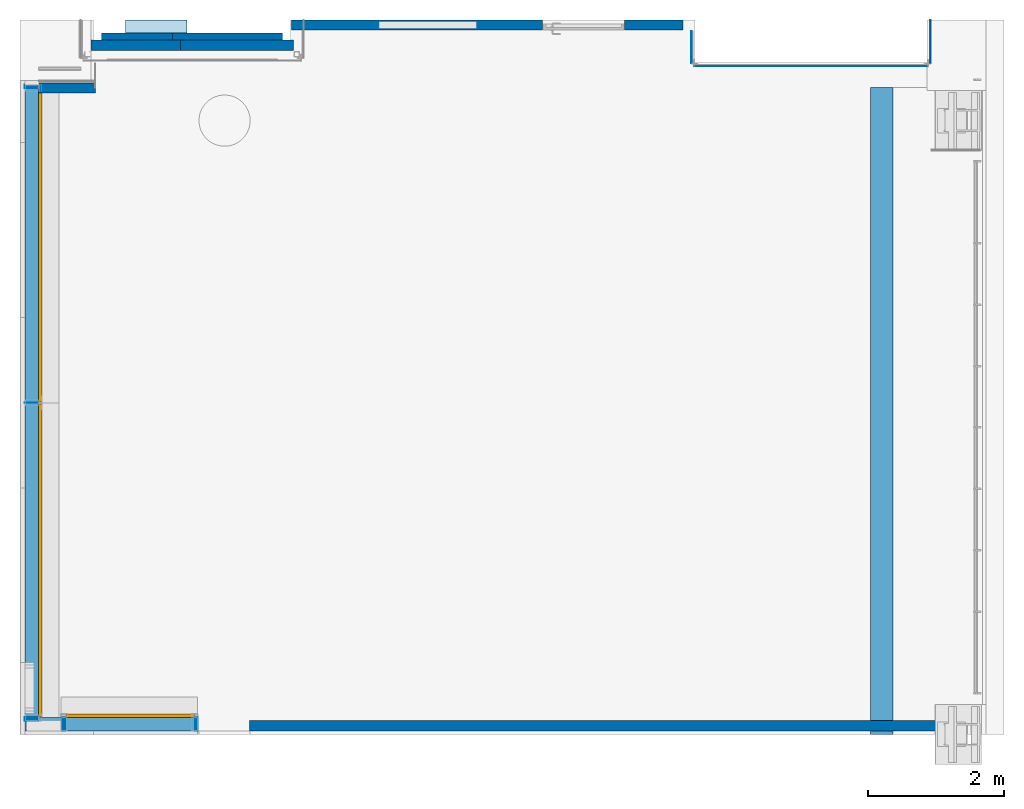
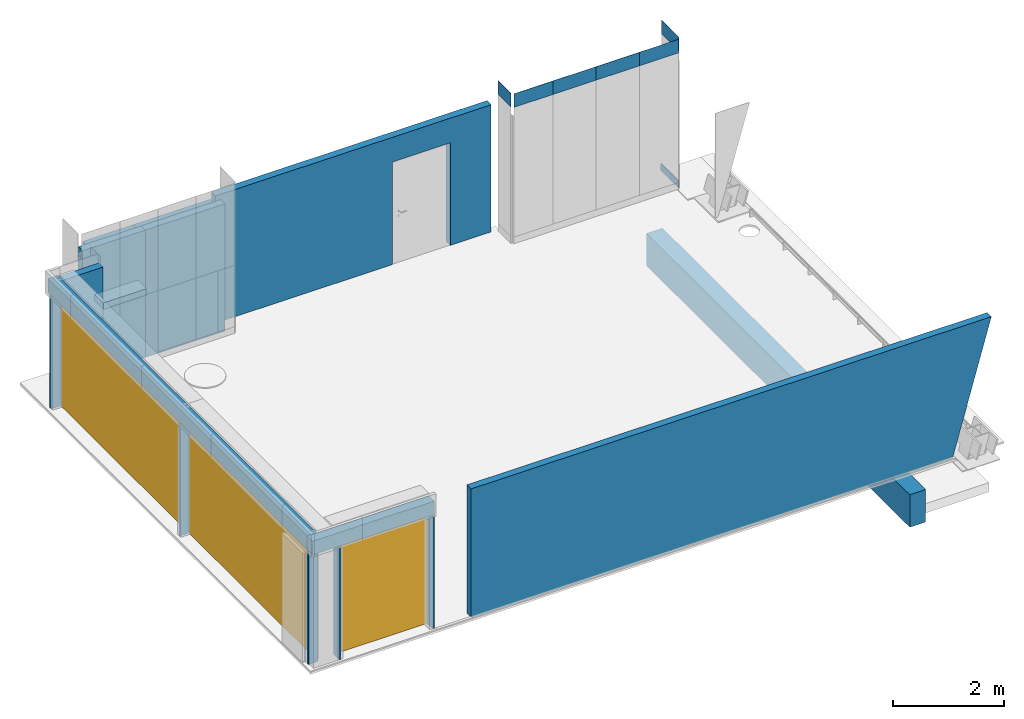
# One storey, part 6 of 14: 12 walls, 7 plates, 3 doors, 1 slab, 6 openings, 3 elements without a shape of their own.
"""IFC2X3 building model written with IfcOpenShell, lengths in millimetres."""

from ifc_helpers import new_model, entity, si_unit, converted_unit, derived_unit, direction, frame, frame_2d, origin, origin_with_axes, origin_2d_with_axis, place, context, subcontext, project, spatial, rectangle, extrude, clip, halfspace, faceted_brep, source, transform, mapped, material, layer, layer_set, layer_usage, type_object, element, fill, aggregate, save


model = new_model("IFC2X3")

# Units and contexts
model_context = context("Model", 3, precision=0.01, world=frame((0.0, 4.29681676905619e-09, 0.0)), true_north=direction((4.01073788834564e-13, 1.0)))
plan_context = context("Plan", 3, precision=0.01, world=frame((0.0, 4.29681676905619e-09, 0.0)), true_north=direction((4.01073788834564e-13, 1.0)))
body_context = subcontext(model_context, "Body", "Model", "MODEL_VIEW")
ifc_project = project(units=[converted_unit("PLANEANGLEUNIT", "DEGREE", entity("IfcPositiveLengthMeasure", 0.0174532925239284), si_unit("PLANEANGLEUNIT", "RADIAN"), dimensions=[0, 0, 0, 0, 0, 0, 0]), si_unit("AREAUNIT", "SQUARE_METRE"), si_unit("LENGTHUNIT", "METRE", prefix="MILLI"), si_unit("MASSUNIT", "GRAM", prefix="KILO"), si_unit("POWERUNIT", "WATT"), si_unit("PRESSUREUNIT", "PASCAL"), si_unit("FORCEUNIT", "NEWTON", prefix="KILO"), si_unit("ELECTRICVOLTAGEUNIT", "VOLT"), si_unit("ELECTRICCURRENTUNIT", "AMPERE"), si_unit("THERMODYNAMICTEMPERATUREUNIT", "DEGREE_CELSIUS"), si_unit("TIMEUNIT", "SECOND"), si_unit("VOLUMEUNIT", "CUBIC_METRE"), derived_unit("LINEARVELOCITYUNIT", [(si_unit("LENGTHUNIT", "METRE"), 1), (si_unit("TIMEUNIT", "SECOND"), -1)]), derived_unit("VOLUMETRICFLOWRATEUNIT", [(si_unit("VOLUMEUNIT", "CUBIC_METRE"), 1), (si_unit("TIMEUNIT", "SECOND"), -1)]), derived_unit("THERMALTRANSMITTANCEUNIT", [(si_unit("POWERUNIT", "WATT"), 1), (si_unit("THERMODYNAMICTEMPERATUREUNIT", "KELVIN"), -1), (si_unit("AREAUNIT", "SQUARE_METRE"), -1)]), derived_unit("SOUNDPRESSUREUNIT", [(si_unit("PRESSUREUNIT", "PASCAL"), 1)])], contexts=[model_context, plan_context])

# Site, building, storey
site_placement = place(None, origin_with_axes())
site = spatial("IfcSite", under=ifc_project, at=site_placement, Name="ENGM", CompositionType="ELEMENT")
building_placement = place(site_placement, origin_with_axes())
building = spatial("IfcBuilding", under=site, at=building_placement, Name="TI", CompositionType="ELEMENT")
storey_placement = place(building_placement, frame((0.0, 0.0, 210900.0), z_axis=(0.0, 0.0, 1.0), x_axis=(1.0, 0.0, 0.0)))
storey = spatial("IfcBuildingStorey", under=building, at=storey_placement, Name="Nivå F", CompositionType="ELEMENT", Elevation=210900.0)

# Curtain wall, plates
curtain_wall_type = type_object("IfcCurtainWallType", Name="Curtain Wall:A245 - IMK - Metal Kledning", PredefinedType="NOTDEFINED")
curtain_wall_1_placement = place(storey_placement, frame((0.0, 0.0, -210900.0), z_axis=(0.0, 0.0, 1.0), x_axis=(1.0, 0.0, 0.0)))
curtain_wall_1 = element("IfcCurtainWall", 1, at=curtain_wall_1_placement, inside=storey, type_object=curtain_wall_type, Name="Curtain Wall:A245 - IMK - Metal Kledning", ObjectType="Curtain Wall:A245 - IMK - Metal Kledning")
ifc_material_1 = material(Name="T2_Metal_Aluminium")
plate_type_1 = type_object("IfcPlateType", Name="System Panel:A245 - KL-M03 - Veggkledning metallplate plan, for betongvegg", PredefinedType="CURTAIN_PANEL", material=ifc_material_1)
plate_1_placement = place(curtain_wall_1_placement, frame((608295.506835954, 698800.000875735, 213900.0), z_axis=(0.0, 0.0, 1.0), x_axis=(-1.0, 0.0, 0.0)))
plate_1 = element("IfcPlate", 2, at=plate_1_placement, type_object=plate_type_1, Name="System Panel:A245 - KL-M03 - Veggkledning metallplate plan, for betongvegg", ObjectType="System Panel:A245 - KL-M03 - Veggkledning metallplate plan, for betongvegg", context=body_context, shape_type="Brep", body=[
    faceted_brep([(-404.500000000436, 0.0, 300.0), (404.500000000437, 0.0, 300.0), (404.500000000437, 0.0, 0.0), (-404.500000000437, 0.0, 0.0), (404.500000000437, 3.0, 300.0), (404.500000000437, 3.0, 0.0), (-404.500000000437, 3.0, 300.0), (-404.500000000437, 3.0, 0.0)], [[[0, 1, 2, 3]], [[1, 4, 5, 2]], [[4, 6, 7, 5]], [[6, 0, 3, 7]], [[3, 2, 5, 7]], [[6, 4, 1, 0]]], orient=[[False], [False], [False], [False], [False], [False]]),
])
plate_2_placement = place(curtain_wall_1_placement, frame((610904.506835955, 698800.000875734, 213900.0), z_axis=(0.0, 0.0, 1.0), x_axis=(-1.0, 0.0, 0.0)))
plate_2 = element("IfcPlate", 3, at=plate_2_placement, type_object=plate_type_1, Name="System Panel:A245 - KL-M03 - Veggkledning metallplate plan, for betongvegg", ObjectType="System Panel:A245 - KL-M03 - Veggkledning metallplate plan, for betongvegg", context=body_context, shape_type="Brep", body=[
    faceted_brep([(-404.500000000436, 0.0, 300.0), (404.500000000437, 0.0, 300.0), (404.500000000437, 0.0, 0.0), (-404.500000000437, 0.0, 0.0), (404.500000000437, 3.0, 300.0), (404.500000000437, 3.0, 0.0), (-404.500000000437, 3.0, 300.0), (-404.500000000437, 3.0, 0.0)], [[[0, 1, 2, 3]], [[1, 4, 5, 2]], [[4, 6, 7, 5]], [[6, 0, 3, 7]], [[3, 2, 5, 7]], [[6, 4, 1, 0]]], orient=[[False], [False], [False], [False], [False], [False]]),
])
plate_type_2 = type_object("IfcPlateType", Name="System Panel:A245 - KL-M03 - Veggkledning metallplate plan, for betongvegg", PredefinedType="CURTAIN_PANEL", material=ifc_material_1)
plate_3_placement = place(curtain_wall_1_placement, frame((609150.006835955, 698800.000875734, 213900.0), z_axis=(0.0, 0.0, 1.0), x_axis=(-1.0, 0.0, 0.0)))
plate_3 = element("IfcPlate", 4, at=plate_3_placement, type_object=plate_type_2, Name="System Panel:A245 - KL-M03 - Veggkledning metallplate plan, for betongvegg", ObjectType="System Panel:A245 - KL-M03 - Veggkledning metallplate plan, for betongvegg", context=body_context, shape_type="Brep", body=[
    faceted_brep([(-450.000000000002, 0.0, 300.0), (450.000000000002, 0.0, 300.0), (450.000000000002, 0.0, 0.0), (-450.000000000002, 0.0, 0.0), (450.000000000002, 3.0, 300.0), (450.000000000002, 3.0, 0.0), (-450.000000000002, 3.0, 300.0), (-450.000000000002, 3.0, 0.0)], [[[0, 1, 2, 3]], [[1, 4, 5, 2]], [[4, 6, 7, 5]], [[6, 0, 3, 7]], [[3, 2, 5, 7]], [[6, 4, 1, 0]]], orient=[[False], [False], [False], [False], [False], [False]]),
])
plate_4_placement = place(curtain_wall_1_placement, frame((610050.006835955, 698800.000875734, 213900.0), z_axis=(0.0, 0.0, 1.0), x_axis=(-1.0, 0.0, 0.0)))
plate_4 = element("IfcPlate", 5, at=plate_4_placement, type_object=plate_type_2, Name="System Panel:A245 - KL-M03 - Veggkledning metallplate plan, for betongvegg", ObjectType="System Panel:A245 - KL-M03 - Veggkledning metallplate plan, for betongvegg", context=body_context, shape_type="Brep", body=[
    faceted_brep([(-450.000000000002, 0.0, 300.0), (450.000000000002, 0.0, 300.0), (450.000000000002, 0.0, 0.0), (-450.000000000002, 0.0, 0.0), (450.000000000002, 3.0, 300.0), (450.000000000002, 3.0, 0.0), (-450.000000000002, 3.0, 300.0), (-450.000000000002, 3.0, 0.0)], [[[0, 1, 2, 3]], [[1, 4, 5, 2]], [[4, 6, 7, 5]], [[6, 0, 3, 7]], [[3, 2, 5, 7]], [[6, 4, 1, 0]]], orient=[[False], [False], [False], [False], [False], [False]]),
])
aggregate(curtain_wall_1, [plate_3, plate_1, plate_2, plate_4])

# Curtain wall, plate
curtain_wall_2_placement = place(storey_placement, frame((0.0, 0.0, -210900.0), z_axis=(0.0, 0.0, 1.0), x_axis=(1.0, 0.0, 0.0)))
curtain_wall_2 = element("IfcCurtainWall", 6, at=curtain_wall_2_placement, inside=storey, type_object=curtain_wall_type, Name="Curtain Wall:A245 - IMK - Metal Kledning", ObjectType="Curtain Wall:A245 - IMK - Metal Kledning")
plate_type_3 = type_object("IfcPlateType", Name="System Panel:A245 - KL-M03 - Veggkledning metallplate plan, for betongvegg", PredefinedType="CURTAIN_PANEL", material=ifc_material_1)
plate_5_placement = place(curtain_wall_2_placement, frame((607850.000000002, 699320.499999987, 213900.0), z_axis=(0.0, 0.0, 1.0), x_axis=(0.0, -1.0, 0.0)))
plate_5 = element("IfcPlate", 7, at=plate_5_placement, type_object=plate_type_3, Name="System Panel:A245 - KL-M03 - Veggkledning metallplate plan, for betongvegg", ObjectType="System Panel:A245 - KL-M03 - Veggkledning metallplate plan, for betongvegg", context=body_context, shape_type="Brep", body=[
    faceted_brep([(479.500000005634, -3.0, 0.0), (479.500000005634, 0.0, 0.0), (10.499999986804, 0.0, 0.0), (10.499999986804, -3.0, 0.0), (10.499999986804, 0.0, 300.0), (10.499999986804, -3.0, 300.0), (479.500000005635, -3.0, 300.0), (479.500000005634, 0.0, 300.0)], [[[0, 1, 2, 3]], [[4, 5, 3, 2]], [[6, 7, 1, 0]], [[5, 6, 0, 3]], [[7, 4, 2, 1]], [[7, 6, 5, 4]]], orient=[[False], [False], [False], [False], [False], [False]]),
])
aggregate(curtain_wall_2, [plate_5])

# Curtain wall, plates
curtain_wall_3_placement = place(storey_placement, frame((0.0, 0.0, -210900.0), z_axis=(0.0, 0.0, 1.0), x_axis=(1.0, 0.0, 0.0)))
curtain_wall_3 = element("IfcCurtainWall", 8, at=curtain_wall_3_placement, inside=storey, type_object=curtain_wall_type, Name="Curtain Wall:A245 - IMK - Metal Kledning", ObjectType="Curtain Wall:A245 - IMK - Metal Kledning")
ifc_material_2 = material(Name="_NSW Stål, rustfritt")
plate_type_4 = type_object("IfcPlateType", Name="System Panel:A245 - KL-S01 - Veggkledning metallplate sokkel - IMK - 20mm", PredefinedType="CURTAIN_PANEL", material=ifc_material_2)
plate_6_placement = place(curtain_wall_3_placement, frame((611350.006835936, 702499.999999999, 210900.0), z_axis=(0.0, 0.0, 1.0), x_axis=(0.0, 1.0, 0.0)))
plate_6 = element("IfcPlate", 9, at=plate_6_placement, type_object=plate_type_4, Name="System Panel:A245 - KL-S01 - Veggkledning metallplate sokkel - IMK - 20mm", ObjectType="System Panel:A245 - KL-S01 - Veggkledning metallplate sokkel - IMK - 20mm", context=body_context, shape_type="Brep", body=[
    faceted_brep([(-3024.4999999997, -3.0, -2.70006239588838e-13), (-3024.4999999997, 17.0, -2.70006239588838e-13), (-3659.00000000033, 17.0, -2.70006239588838e-13), (-3659.00000000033, -3.0, -2.70006239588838e-13), (-3659.00000000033, 17.0, 150.0), (-3659.00000000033, -3.0, 150.0), (-3024.4999999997, 17.0, 150.0), (-3024.4999999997, -3.0, 150.0)], [[[0, 1, 2, 3]], [[3, 2, 4, 5]], [[6, 7, 5, 4]], [[7, 0, 3, 5]], [[1, 6, 4, 2]], [[7, 6, 1, 0]]], orient=[[False], [False], [False], [False], [False], [False]]),
])
plate_type_5 = type_object("IfcPlateType", Name="System Panel:A245 - KL-M03 - Veggkledning metallplate plan, for betongvegg", PredefinedType="CURTAIN_PANEL", material=ifc_material_1)
plate_7_placement = place(curtain_wall_3_placement, frame((611350.006835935, 699320.499999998, 213900.0), z_axis=(0.0, 0.0, 1.0), x_axis=(0.0, 1.0, 0.0)))
plate_7 = element("IfcPlate", 10, at=plate_7_placement, type_object=plate_type_5, Name="System Panel:A245 - KL-M03 - Veggkledning metallplate plan, for betongvegg", ObjectType="System Panel:A245 - KL-M03 - Veggkledning metallplate plan, for betongvegg", context=body_context, shape_type="Brep", body=[
    faceted_brep([(-479.500000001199, -3.00000000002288, 300.0), (155.000000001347, -3.00000000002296, 300.0), (155.000000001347, -3.00000000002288, 0.0), (-479.500000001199, -3.00000000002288, 0.0), (155.000000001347, -2.28759233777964e-11, 0.0), (155.000000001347, -2.29647412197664e-11, 300.0), (-479.500000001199, -2.28759233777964e-11, 300.0), (-479.500000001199, -2.28759233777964e-11, 0.0)], [[[0, 1, 2, 3]], [[4, 5, 6, 7]], [[6, 0, 3, 7]], [[2, 4, 7, 3]], [[5, 4, 2, 1]], [[1, 0, 6, 5]]], orient=[[False], [False], [False], [False], [False], [False]]),
])
aggregate(curtain_wall_3, [plate_6, plate_7])

# Slab
ifc_material_3 = material(Name="_NSW Generell Gulv (Floor)")
ifc_layer_1 = layer(ifc_material_3, 150.0)
ifc_layer_set_1 = layer_set([ifc_layer_1], Name="Floor:A254 - Gulv ARK - 150 mm")
slab_type = type_object("IfcSlabType", Name="Floor:A254 - Gulv ARK - 150 mm", PredefinedType="FLOOR", material=ifc_layer_set_1)
slab_placement = place(storey_placement, origin_with_axes())
element("IfcSlab", 11, at=slab_placement, inside=storey, type_object=slab_type, Name="Floor:A254 - Gulv ARK - 150 mm", ObjectType="Floor:A254 - Gulv ARK - 150 mm", PredefinedType="FLOOR", context=body_context, shape_type="Brep", body=[
    faceted_brep([(600452.499999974, 699154.999999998, 1400.0), (600452.499999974, 699154.999999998, 1250.0), (599549.999999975, 699154.999999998, 1250.0), (599549.999999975, 699154.999999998, 1400.0), (599549.999999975, 699475.499999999, 1250.0), (599549.999999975, 699475.499999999, 1400.0), (600452.499999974, 699475.499999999, 1400.0), (600452.499999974, 699475.499999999, 1250.0)], [[[0, 1, 2, 3]], [[4, 5, 3, 2]], [[6, 7, 1, 0]], [[5, 6, 0, 3]], [[7, 4, 2, 1]], [[7, 6, 5, 4]]], orient=[[False], [False], [False], [False], [False], [False]]),
])

# Wall, opening
ifc_material_4 = material(Name="T2_Gips Fibergips")
ifc_layer_2 = layer(ifc_material_4, 12.5)
ifc_material_5 = material(Name="T2_Gips Protect F")
ifc_layer_3 = layer(ifc_material_5, 15.0)
ifc_material_6 = material(Name="_NSW Stålstender, uisolert")
ifc_layer_4 = layer(ifc_material_6, 100.0)
ifc_layer_5 = layer(ifc_material_5, 15.0)
ifc_layer_6 = layer(ifc_material_4, 12.5)
ifc_layer_set_2 = layer_set([ifc_layer_2, ifc_layer_3, ifc_layer_4, ifc_layer_5, ifc_layer_6], Name="Basic Wall:A241 - RVF-103")
ifc_layer_usage_1 = layer_usage(ifc_layer_set_2, "AXIS2", "NEGATIVE", 77.5)
wall_type_1 = type_object("IfcWallType", Name="Basic Wall:A241 - RVF-103", PredefinedType="STANDARD", material=ifc_layer_set_2)
wall_1_placement = place(storey_placement, frame((602007.996582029, 699104.999999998, 0.0), z_axis=(0.0, 0.0, 1.0), x_axis=(-1.0, 0.0, 0.0)))
wall_1 = element("IfcWallStandardCase", 12, at=wall_1_placement, inside=storey, type_object=wall_type_1, material=ifc_layer_usage_1, Name="Basic Wall:A241 - RVF-103", ObjectType="Basic Wall:A241 - RVF-103", context=body_context, shape_type="Clipping", body=[
    clip(extrude(rectangle(XDim=1655.99257812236, YDim=155.000000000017, at=frame_2d((827.996289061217, -1.13381304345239e-10), x_axis=(-1.0, 0.0))), origin(), (0.0, 0.0, 1.0), 2799.99999999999), halfspace(origin(), True)),
])
opening_1_placement = place(wall_1_placement, origin_with_axes())
element("IfcOpeningElement", 13, at=opening_1_placement, cuts=wall_1, Name="Basic Wall:A241 - RVF-103:1", ObjectType="Opening", context=body_context, shape_type="SweptSolid", body=[
    extrude(rectangle(XDim=100.495996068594, YDim=27.4999999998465, at=frame_2d((-3.46496165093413e-11, 1.38606459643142e-10), x_axis=(1.0, 0.0))), frame((1605.74458008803, -63.7500000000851, 1250.0), z_axis=(0.0, 0.0, 1.0), x_axis=(-1.0, 0.0, 0.0)), (0.0, 0.0, 1.0), 150.000000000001),
])

# Wall
ifc_layer_usage_2 = layer_usage(ifc_layer_set_2, "AXIS2", "NEGATIVE", 77.5)
wall_2_placement = place(storey_placement, frame((600352.004003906, 699104.999999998, 0.0), z_axis=(0.0, 0.0, 1.0), x_axis=(-1.0, 0.0, 0.0)))
element("IfcWallStandardCase", 14, at=wall_2_placement, inside=storey, type_object=wall_type_1, material=ifc_layer_usage_2, Name="Basic Wall:A241 - RVF-103", ObjectType="Basic Wall:A241 - RVF-103", context=body_context, shape_type="Clipping", body=[
    clip(extrude(rectangle(XDim=1310.00000000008, YDim=155.000000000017, at=frame_2d((655.000000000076, 3.1342040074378e-11), x_axis=(-1.0, 0.0))), origin(), (0.0, 0.0, 1.0), 2799.99999999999), halfspace(origin(), True)),
])

# Wall, opening
ifc_material_7 = material(Name="Plate - Gips")
ifc_layer_7 = layer(ifc_material_7, 12.5)
ifc_layer_8 = layer(ifc_material_7, 12.5)
ifc_layer_9 = layer(ifc_material_6, 100.0)
ifc_layer_10 = layer(ifc_material_7, 12.5)
ifc_layer_11 = layer(ifc_material_7, 12.5)
ifc_layer_set_3 = layer_set([ifc_layer_7, ifc_layer_8, ifc_layer_9, ifc_layer_10, ifc_layer_11], Name="Basic Wall:A241 - RVR-101")
wall_type_2 = type_object("IfcWallType", Name="Basic Wall:A241 - RVR-101", PredefinedType="STANDARD", material=ifc_layer_set_3)
wall_3_placement = place(storey_placement, frame((601980.496582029, 699400.5, 0.0), z_axis=(0.0, 0.0, 1.0), x_axis=(1.0, 0.0, 0.0)))
wall_3 = element("IfcWall", 15, at=wall_3_placement, inside=storey, type_object=wall_type_2, Name="Basic Wall:A241 - RVR-101", ObjectType="Basic Wall:A241 - RVR-101", context=body_context, shape_type="Brep", body=[
    faceted_brep([(0.0, -75.0, 0.0), (3682.01025390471, -75.0, 0.0), (3682.01025390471, -75.0, 2257.49658215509), (4887.00341821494, -75.0, 2257.49658215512), (4887.00341821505, -75.0, 0.0), (5739.51025390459, -75.0, 0.0), (5739.51025390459, -75.0, 2800.0), (0.0, -75.0, 2800.0), (5739.51025390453, 75.0, 0.0), (4887.00341821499, 75.0, 0.0), (4887.00341821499, 75.0, 2257.49658215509), (3682.01025390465, 75.0, 2257.49658215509), (3682.01025390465, 75.0, 0.0), (0.0, 75.0, 0.0), (0.0, 75.0, 2800.0), (5739.51025390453, 75.0, 2800.0)], [[[0, 1, 2, 3, 4, 5, 6, 7]], [[8, 9, 10, 11, 12, 13, 14, 15]], [[1, 0, 13, 12]], [[5, 8, 15, 6]], [[13, 0, 7, 14]], [[4, 3, 10, 9]], [[3, 2, 11, 10]], [[2, 1, 12, 11]], [[7, 6, 15, 14]], [[5, 4, 9, 8]]]),
])
opening_2_placement = place(wall_3_placement, frame((4887.00341821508, 74.9999999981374, 0.0), z_axis=(0.0, 0.0, 1.0), x_axis=(1.0, 0.0, 0.0)))
element("IfcOpeningElement", 16, at=opening_2_placement, cuts=wall_3, Name="A20 - Slagdør - Enkel:A243 - DI_LTO - 1190 x 2240 mm:1", ObjectType="Opening", context=body_context, shape_type="SweptSolid", body=[
    extrude(rectangle(XDim=2257.49658215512, YDim=1204.99316431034, at=frame_2d((1128.74829107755, 602.49658215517), x_axis=(1.0, 0.0))), frame((0.0, 0.0, 0.0), z_axis=(0.0, -1.0, 0.0), x_axis=(0.0, 0.0, 1.0)), (0.0, 0.0, 1.0), 150.0),
])

# Walls
ifc_layer_12 = layer(ifc_material_7, 13.0)
ifc_material_8 = material(Name="_NSW X-finer")
ifc_layer_13 = layer(ifc_material_8, 12.0)
ifc_layer_14 = layer(ifc_material_6, 100.0)
ifc_layer_15 = layer(ifc_material_8, 12.0)
ifc_layer_16 = layer(ifc_material_7, 13.0)
ifc_layer_set_4 = layer_set([ifc_layer_12, ifc_layer_13, ifc_layer_14, ifc_layer_15, ifc_layer_16], Name="Basic Wall:A241 - SXVXS-100")
wall_type_3 = type_object("IfcWallType", Name="Basic Wall:A241 - SXVXS-100", PredefinedType="STANDARD", material=ifc_layer_set_4)
wall_4_placement = place(storey_placement, frame((612254.023798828, 689124.999999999, -25.0), z_axis=(0.0, 0.0, 1.0), x_axis=(-1.0, 0.0, 0.0)))
element("IfcWall", 17, at=wall_4_placement, inside=storey, type_object=wall_type_3, Name="Basic Wall:A241 - SXVXS-100", ObjectType="Basic Wall:A241 - SXVXS-100", context=body_context, shape_type="Brep", body=[
    faceted_brep([(863.760239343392, -75.0, 0.0), (10887.1195197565, -75.0, 0.0), (10887.1195197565, -75.0, 2825.0), (56.5744384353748, -75.0, 2825.0), (10887.1195197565, 75.0, 0.0), (863.760239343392, 75.0, 0.0), (56.5744384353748, 75.0, 2825.0), (10887.1195197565, 75.0, 2825.0)], [[[0, 1, 2, 3]], [[4, 5, 6, 7]], [[1, 0, 5, 4]], [[1, 4, 7, 2]], [[5, 0, 3, 6]], [[3, 2, 7, 6]]]),
])
ifc_layer_usage_3 = layer_usage(ifc_layer_set_4, "AXIS2", "NEGATIVE", 75.0)
wall_5_placement = place(storey_placement, frame((598269.99999994, 698477.499999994, 0.0), z_axis=(0.0, 0.0, 1.0), x_axis=(1.0, 0.0, 0.0)))
element("IfcWallStandardCase", 18, at=wall_5_placement, inside=storey, type_object=wall_type_3, material=ifc_layer_usage_3, Name="Basic Wall:A241 - SXVXS-100", ObjectType="Basic Wall:A241 - SXVXS-100", context=body_context, shape_type="Clipping", body=[
    clip(extrude(rectangle(XDim=835.003222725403, YDim=149.999999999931, at=frame_2d((417.501611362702, 6.93063384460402e-11), x_axis=(-1.0, 0.0))), origin(), (0.0, 0.0, 1.0), 2799.99999999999), halfspace(origin(), True)),
])
ifc_material_9 = material(Name="Kledning")
ifc_layer_17 = layer(ifc_material_9, 15.0)
ifc_material_10 = material(Name="_NSW Isolasjon trykkfast")
ifc_layer_18 = layer(ifc_material_10, 300.0)
ifc_layer_19 = layer(ifc_material_9, 15.0)
ifc_layer_set_5 = layer_set([ifc_layer_17, ifc_layer_18, ifc_layer_19], Name="Basic Wall:A231 - SHIRT I PIRROT OG PIRNORD -330")
wall_type_4 = type_object("IfcWallType", Name="Basic Wall:A231 - SHIRT I PIRROT OG PIRNORD -330", PredefinedType="STANDARD", material=ifc_layer_set_5)
wall_6_placement = place(storey_placement, frame((610635.000000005, 650849.999999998, -1200.0), z_axis=(0.0, 0.0, 1.0), x_axis=(0.0, 1.0, 0.0)))
element("IfcWall", 19, at=wall_6_placement, inside=storey, type_object=wall_type_4, Name="Basic Wall:A231 - SHIRT I PIRROT OG PIRNORD -330", ObjectType="Basic Wall:A231 - SHIRT I PIRROT OG PIRNORD -330", context=body_context, shape_type="Brep", body=[
    faceted_brep([(38150.0000000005, -164.99999999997, 0.0), (38150.0000000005, -164.99999999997, 714.999999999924), (47635.0000000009, -164.99999999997, 714.999999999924), (47635.0000000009, -164.99999999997, 0.0), (47635.0000000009, 165.000000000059, 714.999999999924), (47635.0000000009, 165.000000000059, 0.0), (38150.0000000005, 165.000000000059, 714.999999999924), (38150.0000000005, 165.000000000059, 0.0)], [[[0, 1, 2, 3]], [[3, 2, 4, 5]], [[6, 7, 5, 4]], [[7, 0, 3, 5]], [[1, 6, 4, 2]], [[7, 6, 1, 0]]], orient=[[False], [False], [False], [False], [False], [False]]),
])
ifc_layer_20 = layer(ifc_material_5, 15.0)
ifc_layer_21 = layer(ifc_material_5, 15.0)
ifc_layer_22 = layer(ifc_material_6, 75.0)
ifc_layer_set_6 = layer_set([ifc_layer_20, ifc_layer_21, ifc_layer_22], Name="Basic Wall:A241 - FV-75")
ifc_layer_usage_4 = layer_usage(ifc_layer_set_6, "AXIS2", "POSITIVE", -52.5)
wall_type_5 = type_object("IfcWallType", Name="Basic Wall:A241 - FV-75", PredefinedType="STANDARD", material=ifc_layer_set_6)
wall_7_placement = place(storey_placement, frame((601852.996582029, 699234.999999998, 0.0), z_axis=(0.0, 0.0, 1.0), x_axis=(-1.0, 0.0, 0.0)))
element("IfcWallStandardCase", 20, at=wall_7_placement, inside=storey, type_object=wall_type_5, material=ifc_layer_usage_4, Name="Basic Wall:A241 - FV-75", ObjectType="Basic Wall:A241 - FV-75", context=body_context, shape_type="Clipping", body=[
    clip(extrude(rectangle(XDim=1615.98271482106, YDim=104.999999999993, at=frame_2d((807.991357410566, 2.50963694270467e-11), x_axis=(-1.0, 0.0))), origin(), (0.0, 0.0, 1.0), 2799.99999999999), halfspace(origin(), True)),
])
ifc_layer_usage_5 = layer_usage(ifc_layer_set_6, "AXIS2", "POSITIVE", -52.5)
wall_8_placement = place(storey_placement, frame((600237.013867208, 699234.999999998, 0.0), z_axis=(0.0, 0.0, 1.0), x_axis=(-1.0, 0.0, 0.0)))
element("IfcWallStandardCase", 21, at=wall_8_placement, inside=storey, type_object=wall_type_5, material=ifc_layer_usage_5, Name="Basic Wall:A241 - FV-75", ObjectType="Basic Wall:A241 - FV-75", context=body_context, shape_type="Clipping", body=[
    clip(extrude(rectangle(XDim=1040.00986330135, YDim=104.999999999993, at=frame_2d((520.004931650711, -1.33510980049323e-11), x_axis=(-1.0, 0.0))), origin(), (0.0, 0.0, 1.0), 2799.99999999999), halfspace(origin(), True)),
])

# Wall, opening
ifc_material_11 = material(Name="T2 - Stål")
ifc_layer_23 = layer(ifc_material_11, 200.0)
ifc_layer_set_7 = layer_set([ifc_layer_23], Name="Basic Wall:A245 - Butikkfasader bjelke/kasse")
ifc_layer_usage_6 = layer_usage(ifc_layer_set_7, "AXIS2", "NEGATIVE", 100.0)
wall_type_6 = type_object("IfcWallType", Name="Basic Wall:A245 - Butikkfasader bjelke/kasse", PredefinedType="STANDARD", material=ifc_layer_set_7)
wall_9_placement = place(storey_placement, frame((598169.999999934, 689249.999999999, 2500.0), z_axis=(0.0, 0.0, 1.0), x_axis=(0.0, 1.0, 0.0)))
wall_9 = element("IfcWallStandardCase", 22, at=wall_9_placement, inside=storey, type_object=wall_type_6, material=ifc_layer_usage_6, Name="Basic Wall:A245 - Butikkfasader bjelke/kasse", ObjectType="Basic Wall:A245 - Butikkfasader bjelke/kasse", context=body_context, shape_type="Clipping", body=[
    clip(extrude(rectangle(XDim=9334.99999999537, YDim=200.000000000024, at=frame_2d((4667.49999999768, -3.46531692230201e-11), x_axis=(-1.0, 0.0))), origin(), (0.0, 0.0, 1.0), 300.000000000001), halfspace(origin(), True)),
])
opening_3_placement = place(wall_9_placement, origin_with_axes())
element("IfcOpeningElement", 23, at=opening_3_placement, cuts=wall_9, Name="Basic Wall:A245 - Butikkfasader bjelke/kasse", ObjectType="Opening", context=body_context, shape_type="SweptSolid", body=[
    extrude(rectangle(XDim=2499.99999999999, YDim=4609.99999999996, at=frame_2d((0.0, 6.93489710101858e-11), x_axis=(1.0, 0.0))), frame((6917.50083063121, -1623.97383553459, -1250.0), z_axis=(0.0, 1.0, 0.0), x_axis=(0.0, 0.0, 1.0)), (0.0, 0.0, 1.0), 3048.0),
])

# Wall
ifc_layer_usage_7 = layer_usage(ifc_layer_set_7, "AXIS2", "NEGATIVE", 100.0)
wall_10_placement = place(storey_placement, frame((598069.999999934, 689149.999999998, 2500.0), z_axis=(0.0, 0.0, 1.0), x_axis=(1.0, 0.0, 0.0)))
element("IfcWallStandardCase", 24, at=wall_10_placement, inside=storey, type_object=wall_type_6, material=ifc_layer_usage_7, Name="Basic Wall:A245 - Butikkfasader bjelke/kasse", ObjectType="Basic Wall:A245 - Butikkfasader bjelke/kasse", context=body_context, shape_type="Clipping", body=[
    clip(extrude(rectangle(XDim=2535.00000006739, YDim=199.999999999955, at=frame_2d((1267.5000000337, 7.7839956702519e-11), x_axis=(-1.0, 0.0))), origin(), (0.0, 0.0, 1.0), 300.000000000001), halfspace(origin(), True)),
])

# Wall, openings, doors
wall_11_placement = place(storey_placement, frame((598169.973835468, 689200.000830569, 0.0), z_axis=(0.0, 0.0, 1.0), x_axis=(0.0, 1.0, 0.0)))
wall_11 = element("IfcWall", 25, at=wall_11_placement, inside=storey, type_object=wall_type_6, Name="Basic Wall:A245 - Butikkfasader bjelke/kasse", ObjectType="Basic Wall:A245 - Butikkfasader bjelke/kasse", context=body_context, shape_type="SweptSolid", body=[
    extrude(rectangle(XDim=49.9999998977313, YDim=200.000000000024, at=frame_2d((0.0, 3.46531692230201e-11), x_axis=(1.0, 0.0))), frame((24.9999999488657, 0.0, 0.0)), (0.0, 0.0, 1.0), 2499.99999999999),
    extrude(rectangle(XDim=52.4999998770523, YDim=200.000000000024, at=frame_2d((0.0, 3.46531692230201e-11), x_axis=(1.0, 0.0))), frame((9298.74999999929, 0.0, 0.0), z_axis=(0.0, 0.0, 1.0), x_axis=(-1.0, 0.0, 0.0)), (0.0, 0.0, 1.0), 2499.99999999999),
    extrude(rectangle(XDim=2.50000016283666, YDim=200.000000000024, at=frame_2d((0.0, 3.46531692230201e-11), x_axis=(1.0, 0.0))), frame((4661.24999997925, 0.0, 0.0)), (0.0, 0.0, 1.0), 2499.99999999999),
])
opening_4_placement = place(wall_11_placement, frame((4659.99999989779, 100.0, 0.0), z_axis=(0.0, 0.0, 1.0), x_axis=(1.0, 0.0, 0.0)))
opening_4 = element("IfcOpeningElement", 26, at=opening_4_placement, cuts=wall_11, Name="A233 - Rulleport:A233 - RI_AAO - 4610 x 2500:1", ObjectType="Opening", context=body_context, shape_type="SweptSolid", body=[
    extrude(rectangle(XDim=2500.0, YDim=4610.0, at=frame_2d((1249.99999999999, 2305.0000000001), x_axis=(1.0, 0.0))), frame((0.0, 0.0, 0.0), z_axis=(0.0, -1.0, 0.0), x_axis=(0.0, 0.0, 1.0)), (0.0, 0.0, 1.0), 200.0),
])
opening_5_placement = place(wall_11_placement, frame((9272.50000006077, 100.0, 0.0), z_axis=(0.0, 0.0, 1.0), x_axis=(1.0, 0.0, 0.0)))
opening_5 = element("IfcOpeningElement", 27, at=opening_5_placement, cuts=wall_11, Name="A233 - Rulleport:A233 - RI_AAO - 4610 x 2500:1", ObjectType="Opening", context=body_context, shape_type="SweptSolid", body=[
    extrude(rectangle(XDim=2500.0, YDim=4610.0, at=frame_2d((1249.99999999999, 2305.0), x_axis=(1.0, 0.0))), frame((0.0, 0.0, 0.0), z_axis=(0.0, -1.0, 0.0), x_axis=(0.0, 0.0, 1.0)), (0.0, 0.0, 1.0), 200.0),
])
ifc_material_12 = material(Name="NO_Aluminium")
door_style_1 = type_object("IfcDoorStyle", Name="A233 - Rulleport:A233 - RI_AAO - 4610 x 2500", ConstructionType="NOTDEFINED", OperationType="NOTDEFINED", ParameterTakesPrecedence=False, Sizeable=False, material=ifc_material_12)
shared_shape_1 = source(origin(), body_context, "Body", "SweptSolid", [
    extrude(rectangle(XDim=4580.00000000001, YDim=50.0, at=origin_2d_with_axis()), frame((2305.0, -25.0, 0.0), z_axis=(0.0, 0.0, 1.0), x_axis=(-1.0, 0.0, 0.0)), (0.0, 0.0, 1.0), 2500.0),
])
door_1_placement = place(opening_4_placement, frame((-4610.0, -200.0, 0.0), z_axis=(0.0, 0.0, 1.0), x_axis=(1.0, 0.0, 0.0)))
door_1 = element("IfcDoor", 28, at=door_1_placement, inside=storey, type_object=door_style_1, material=ifc_material_12, Name="A233 - Rulleport:A233 - RI_AAO - 4610 x 2500", ObjectType="A233 - Rulleport:A233 - RI_AAO - 4610 x 2500", OverallHeight=2499.99999999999, OverallWidth=4610.0000000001, context=body_context, shape_type="MappedRepresentation", body=[
    mapped(shared_shape_1, transform((0.0, 0.0, 0.0), scale=1.0)),
])
fill(opening_4, door_1)
door_style_2 = type_object("IfcDoorStyle", Name="A233 - Rulleport:A233 - RI_AAO - 4610 x 2500", ConstructionType="NOTDEFINED", OperationType="NOTDEFINED", ParameterTakesPrecedence=False, Sizeable=False, material=ifc_material_12)
shared_shape_2 = source(origin(), body_context, "Body", "SweptSolid", [
    extrude(rectangle(XDim=50.0, YDim=4580.00000000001, at=origin_2d_with_axis()), frame((2305.0, -25.0, 0.0), z_axis=(0.0, 0.0, 1.0), x_axis=(0.0, -1.0, 0.0)), (0.0, 0.0, 1.0), 2500.0),
])
door_2_placement = place(opening_5_placement, frame((-4610.0, -200.0, 0.0), z_axis=(0.0, 0.0, 1.0), x_axis=(1.0, 0.0, 0.0)))
door_2 = element("IfcDoor", 29, at=door_2_placement, inside=storey, type_object=door_style_2, material=ifc_material_12, Name="A233 - Rulleport:A233 - RI_AAO - 4610 x 2500", ObjectType="A233 - Rulleport:A233 - RI_AAO - 4610 x 2500", OverallHeight=2499.99999999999, OverallWidth=4610.0000000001, context=body_context, shape_type="MappedRepresentation", body=[
    mapped(shared_shape_2, transform((0.0, 0.0, 0.0), scale=1.0)),
])
fill(opening_5, door_2)

# Wall, opening, door
ifc_layer_usage_8 = layer_usage(ifc_layer_set_7, "AXIS2", "NEGATIVE", 100.0)
wall_12_placement = place(storey_placement, frame((598619.99999994, 689149.999999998, 0.0), z_axis=(0.0, 0.0, 1.0), x_axis=(1.0, 0.0, 0.0)))
wall_12 = element("IfcWallStandardCase", 30, at=wall_12_placement, inside=storey, type_object=wall_type_6, material=ifc_layer_usage_8, Name="Basic Wall:A245 - Butikkfasader bjelke/kasse", ObjectType="Basic Wall:A245 - Butikkfasader bjelke/kasse", context=body_context, shape_type="SweptSolid", body=[
    extrude(rectangle(XDim=199.999999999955, YDim=1985.0000000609, at=frame_2d((992.50000003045, 6.93063384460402e-11), x_axis=(0.0, -1.0))), origin(), (0.0, 0.0, 1.0), 2499.99999999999),
])
opening_6_placement = place(wall_12_placement, frame((42.5000000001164, -100.0, 0.0), z_axis=(0.0, 0.0, 1.0), x_axis=(1.0, 0.0, 0.0)))
opening_6 = element("IfcOpeningElement", 31, at=opening_6_placement, cuts=wall_12, Name="A233 - Rulleport:A233 - RI_AAO - 1910 x 2500:1", ObjectType="Opening", context=body_context, shape_type="SweptSolid", body=[
    extrude(rectangle(XDim=2500.0, YDim=1910.0, at=frame_2d((1249.99999999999, 955.0), x_axis=(1.0, 0.0))), frame((0.0, 0.0, 0.0), z_axis=(0.0, 1.0, 0.0), x_axis=(0.0, 0.0, 1.0)), (0.0, 0.0, 1.0), 200.0),
])
door_style_3 = type_object("IfcDoorStyle", Name="A233 - Rulleport:A233 - RI_AAO - 1910 x 2500", ConstructionType="NOTDEFINED", OperationType="NOTDEFINED", ParameterTakesPrecedence=False, Sizeable=False, material=ifc_material_12)
shared_shape_3 = source(origin(), body_context, "Body", "SweptSolid", [
    extrude(rectangle(XDim=50.0, YDim=1880.00000000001, at=origin_2d_with_axis()), frame((955.0, -25.0, 0.0), z_axis=(0.0, 0.0, 1.0), x_axis=(0.0, -1.0, 0.0)), (0.0, 0.0, 1.0), 2500.0),
])
door_3_placement = place(opening_6_placement, frame((1910.0, 200.0, 0.0), z_axis=(0.0, 0.0, 1.0), x_axis=(-1.0, 0.0, 0.0)))
door_3 = element("IfcDoor", 32, at=door_3_placement, inside=storey, type_object=door_style_3, material=ifc_material_12, Name="A233 - Rulleport:A233 - RI_AAO - 1910 x 2500", ObjectType="A233 - Rulleport:A233 - RI_AAO - 1910 x 2500", OverallHeight=2499.99999999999, OverallWidth=1910.00000000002, context=body_context, shape_type="MappedRepresentation", body=[
    mapped(shared_shape_3, transform((0.0, 0.0, 0.0), scale=1.0)),
])
fill(opening_6, door_3)

save(model, "model.ifc")
